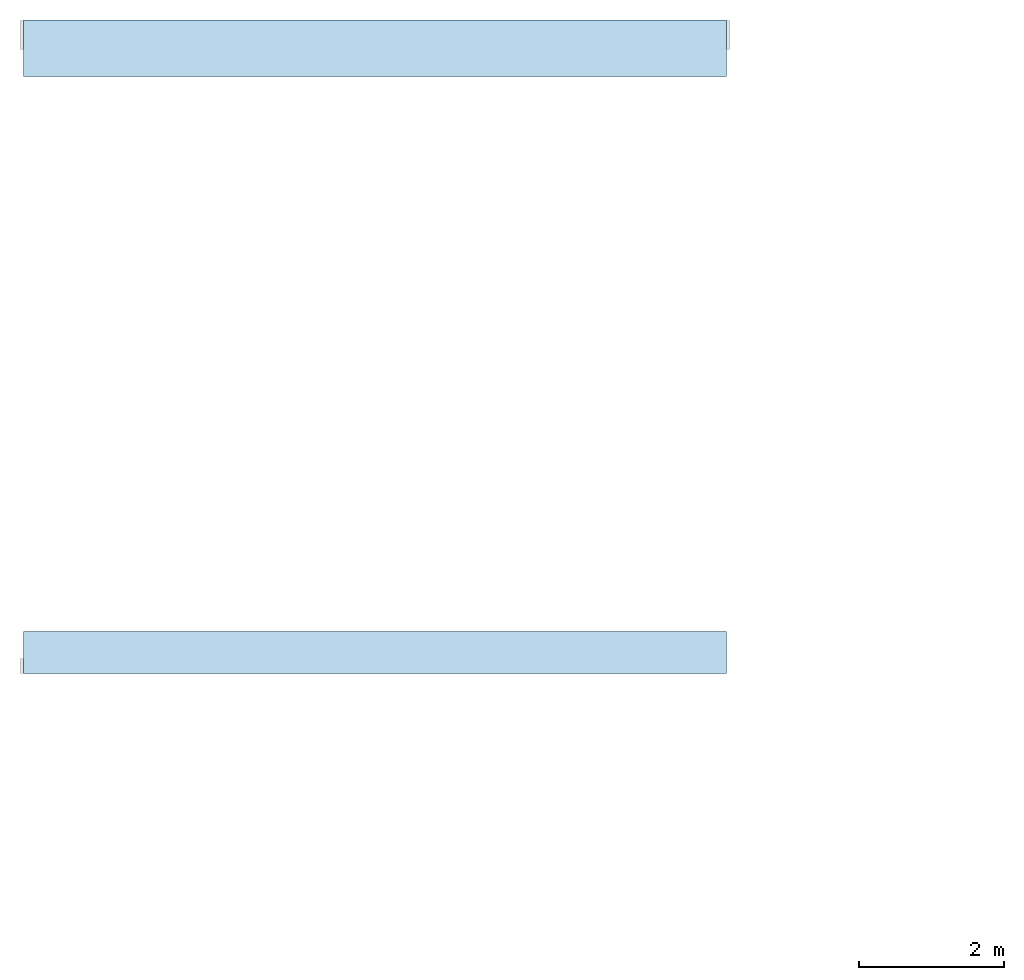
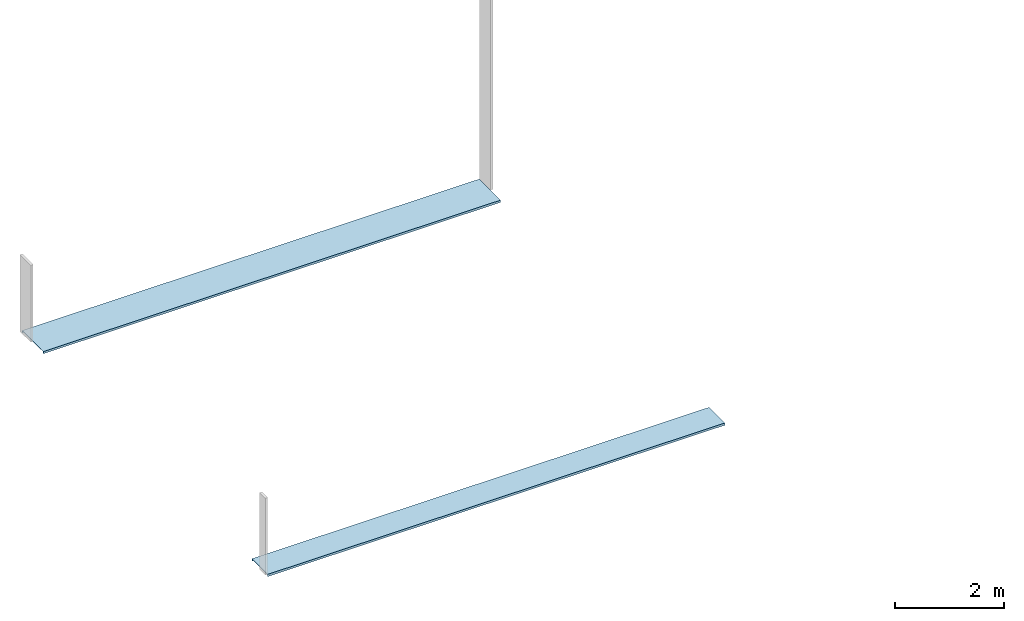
# One storey, part 1 of 3: 1 slab, 1 element without a shape of its own.
"""IFC2X3 building model written with IfcOpenShell, lengths in centimetres."""

from ifc_helpers import new_model, entity, si_unit, converted_unit, derived_unit, direction, frame, origin, place, context, subcontext, project, spatial, polyline, outline, extrude, material, element, aggregate, save


model = new_model("IFC2X3")

# Units and contexts
model_context = context("Model", 3, precision=0.001, world=origin(), true_north=direction((6.12303176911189e-17, 1.0)))
body_context = subcontext(model_context, "Body", "Model", "MODEL_VIEW")
ifc_project = project(units=[si_unit("LENGTHUNIT", "METRE", prefix="CENTI"), si_unit("AREAUNIT", "SQUARE_METRE"), si_unit("VOLUMEUNIT", "CUBIC_METRE"), converted_unit("PLANEANGLEUNIT", "DEGREE", entity("IfcRatioMeasure", 0.0174532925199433), si_unit("PLANEANGLEUNIT", "RADIAN"), dimensions=[0, 0, 0, 0, 0, 0, 0]), si_unit("MASSUNIT", "GRAM", prefix="KILO"), derived_unit("MASSDENSITYUNIT", [(si_unit("MASSUNIT", "GRAM", prefix="KILO"), 1), (si_unit("LENGTHUNIT", "METRE"), -3)]), si_unit("TIMEUNIT", "SECOND"), si_unit("FREQUENCYUNIT", "HERTZ"), si_unit("THERMODYNAMICTEMPERATUREUNIT", "DEGREE_CELSIUS"), derived_unit("THERMALTRANSMITTANCEUNIT", [(si_unit("MASSUNIT", "GRAM", prefix="KILO"), 1), (si_unit("THERMODYNAMICTEMPERATUREUNIT", "KELVIN"), -1), (si_unit("TIMEUNIT", "SECOND"), -3)]), derived_unit("VOLUMETRICFLOWRATEUNIT", [(si_unit("LENGTHUNIT", "METRE"), 3), (si_unit("TIMEUNIT", "SECOND"), -1)]), si_unit("ELECTRICCURRENTUNIT", "AMPERE"), si_unit("ELECTRICVOLTAGEUNIT", "VOLT"), si_unit("POWERUNIT", "WATT"), si_unit("FORCEUNIT", "NEWTON", prefix="KILO"), si_unit("ILLUMINANCEUNIT", "LUX"), si_unit("LUMINOUSFLUXUNIT", "LUMEN"), si_unit("LUMINOUSINTENSITYUNIT", "CANDELA"), derived_unit("USERDEFINED", [(si_unit("MASSUNIT", "GRAM", prefix="KILO"), -1), (si_unit("LENGTHUNIT", "METRE"), -2), (si_unit("TIMEUNIT", "SECOND"), 3), (si_unit("LUMINOUSFLUXUNIT", "LUMEN"), 1)]), derived_unit("LINEARVELOCITYUNIT", [(si_unit("LENGTHUNIT", "METRE"), 1), (si_unit("TIMEUNIT", "SECOND"), -1)]), si_unit("PRESSUREUNIT", "PASCAL"), derived_unit("USERDEFINED", [(si_unit("LENGTHUNIT", "METRE"), -2), (si_unit("MASSUNIT", "GRAM", prefix="KILO"), 1), (si_unit("TIMEUNIT", "SECOND"), -2)])], contexts=[model_context])

# Site, building, storey
site_placement = place(None, frame((-2781.94577612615, 7442.24238424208, 0.0)))
site = spatial("IfcSite", under=ifc_project, at=site_placement, Name="Default", CompositionType="ELEMENT")
building_placement = place(site_placement, origin())
building = spatial("IfcBuilding", under=site, at=building_placement, CompositionType="ELEMENT")
storey_placement = place(building_placement, frame((0.0, 0.0, 317.500000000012)))
storey = spatial("IfcBuildingStorey", under=building, at=storey_placement, Name="Toiture - Infirmerie", CompositionType="ELEMENT", Elevation=317.500000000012)

# Roof, slab
ifc_material = material(Name="Aluminium")
roof_placement = place(storey_placement, origin())
roof = element("IfcRoof", 1, at=roof_placement, inside=storey, material=ifc_material, Name="Couvertine ( infirmerie):Couvertine ( infirmerie)", ObjectType="Couvertine ( infirmerie):Couvertine ( infirmerie)", ShapeType="NOTDEFINED")
slab_placement = place(storey_placement, origin())
slab = element("IfcSlab", 2, at=slab_placement, material=ifc_material, Name="Couvertine ( infirmerie):Couvertine ( infirmerie):1", ObjectType="Couvertine ( infirmerie):Couvertine ( infirmerie)", PredefinedType="ROOF", context=body_context, shape_type="SweptSolid", body=[
    extrude(outline(polyline([(-38.4999999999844, -2.12499999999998), (-38.4999999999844, 2.37500000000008), (-39.0, 2.37500000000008), (-39.0, -2.62499999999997), (39.0, -2.62499999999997), (39.0, 2.37500000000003), (38.4999999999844, 2.37500000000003), (38.4999999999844, -2.12499999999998), (-38.4999999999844, -2.12499999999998)])), frame((-9399.49987766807, 12.0, -2.62500000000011), z_axis=(-1.0, 0.0, 0.0), x_axis=(0.0, 1.0, 0.0)), (0.0, 0.0, -1.0), 970.000000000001),
    extrude(outline(polyline([(-2.125, 28.4999999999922), (2.37500000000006, 28.4999999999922), (2.37500000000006, 29.0), (-2.625, 29.0), (-2.62500000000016, -29.0), (2.375, -29.0), (2.375, -28.499999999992), (-2.12500000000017, -28.499999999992), (-2.125, 28.4999999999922)])), frame((-9399.49987766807, -822.048500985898, -2.62499999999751), z_axis=(1.0, 0.0, 0.0), x_axis=(0.0, 0.0, -1.0)), (0.0, 0.0, 1.0), 970.000000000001),
])
aggregate(roof, [slab])

save(model, "model.ifc")
